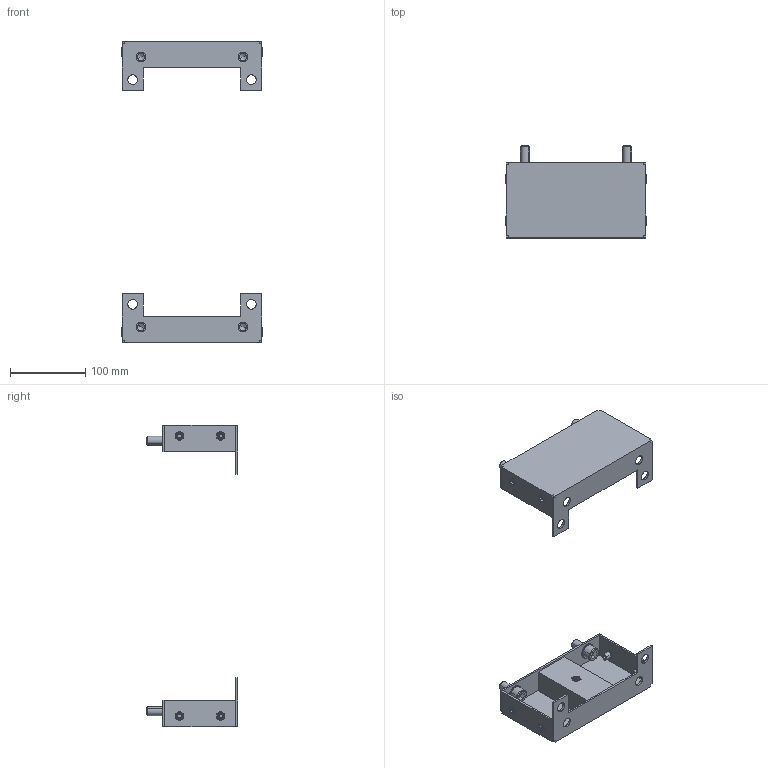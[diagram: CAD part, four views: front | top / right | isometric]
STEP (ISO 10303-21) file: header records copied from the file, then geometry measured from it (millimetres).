
FILE_DESCRIPTION (( 'STEP AP203' ), '1' );
FILE_NAME ('R6PLB25 H=400.STEP', '2025-05-16T11:35:42', ( '' ), ( '' ), 'SwSTEP 2.0', 'SolidWorks 2022', '' );
FILE_SCHEMA (( 'CONFIG_CONTROL_DESIGN' ));
Length unit declared in the file: millimetre
Products named in the file (7): RB.3309.00.00.0 СБ simple; RB.3309.00.01.0 simple; M6 MGS-MPO-0635_straight; RB.3309.00.02.0 simple; M12x25 DIN 912 HX cl.8,8 Zinc_stright; R6PLB25 H=400; 12 DIN 6798 A Zinc
Assembly tree (17 placements, depth 3):
  R6PLB25 H=400
    RB.3309.00.00.0 СБ simple  x2
      RB.3309.00.01.0 simple
      M6 MGS-MPO-0635_straight
      RB.3309.00.02.0 simple
    12 DIN 6798 A Zinc  x4
    M12x25 DIN 912 HX cl.8,8 Zinc_stright  x4
Bounding box: 186.7 x 121.5 x 400 mm (x, y, z)
Volume: 261997.6 mm3; surface area: 216610.9 mm2
Topology: 22 solids, 22 shells, 1220 faces, 3192 edges, 1808 vertices
Faces by surface type: plane 548, cylinder 356, bspline 144, sphere 120, cone 36, torus 16
Entity records: 10115 total; most frequent: CARTESIAN_POINT 2745, ORIENTED_EDGE 1384, DIRECTION 1192, EDGE_CURVE 692, LINE 444, VECTOR 444, VERTEX_POINT 443, AXIS2_PLACEMENT_3D 374
